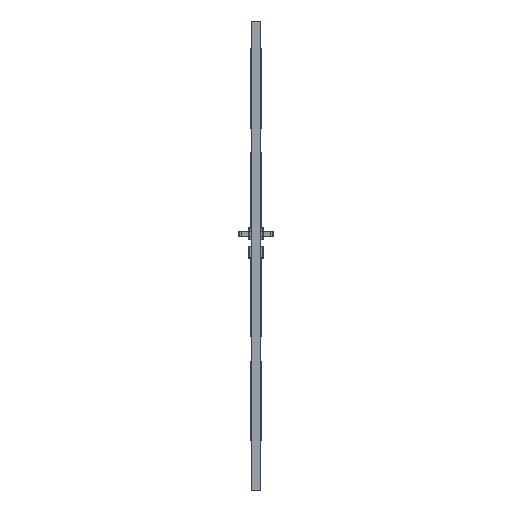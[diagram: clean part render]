
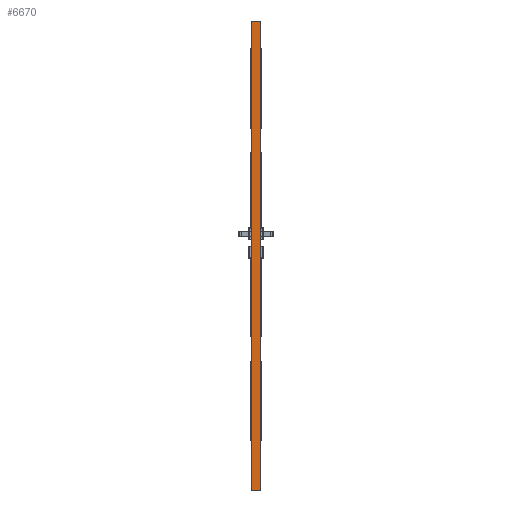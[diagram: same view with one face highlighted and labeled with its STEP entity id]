
A CAD part, left-side view. The second image highlights one B-rep face of the part: STEP entity #6670.
In plain terms, the highlighted planar face has unit normal (-1, 0, 0).
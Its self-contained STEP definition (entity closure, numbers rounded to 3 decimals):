
#6670=ADVANCED_FACE('',(#12442),#10005,.F.);
#10005=PLANE('',#66684);
#12442=FACE_OUTER_BOUND('',#15994,.T.);
#15994=EDGE_LOOP('',(#22382,#22383,#22384,#22385,#22386,#22387));
#22382=ORIENTED_EDGE('',*,*,#45281,.T.);
#22383=ORIENTED_EDGE('',*,*,#45753,.T.);
#22384=ORIENTED_EDGE('',*,*,#45712,.T.);
#22385=ORIENTED_EDGE('',*,*,#45709,.T.);
#22386=ORIENTED_EDGE('',*,*,#45303,.F.);
#22387=ORIENTED_EDGE('',*,*,#45752,.F.);
#39092=VERTEX_POINT('',#89885);
#39093=VERTEX_POINT('',#89887);
#39114=VERTEX_POINT('',#89991);
#39115=VERTEX_POINT('',#89992);
#39362=VERTEX_POINT('',#93816);
#39364=VERTEX_POINT('',#93822);
#45281=EDGE_CURVE('',#39093,#39092,#54312,.T.);
#45303=EDGE_CURVE('',#39114,#39115,#54314,.T.);
#45709=EDGE_CURVE('',#39362,#39115,#54569,.T.);
#45712=EDGE_CURVE('',#39364,#39362,#54572,.T.);
#45752=EDGE_CURVE('',#39093,#39114,#54608,.T.);
#45753=EDGE_CURVE('',#39092,#39364,#54609,.T.);
#54312=LINE('',#89886,#60326);
#54314=LINE('',#89990,#60328);
#54569=LINE('',#93815,#60583);
#54572=LINE('',#93821,#60586);
#54608=LINE('',#93896,#60622);
#54609=LINE('',#93898,#60623);
#60326=VECTOR('',#71535,1.);
#60328=VECTOR('',#71539,1.);
#60583=VECTOR('',#72058,1.);
#60586=VECTOR('',#72063,1.);
#60622=VECTOR('',#72125,1.);
#60623=VECTOR('',#72128,1.);
#66684=AXIS2_PLACEMENT_3D('',#93899,#72129,#72130);
#71535=DIRECTION('',(0.,0.,-1.));
#71539=DIRECTION('',(0.,0.,-1.));
#72058=DIRECTION('',(0.,-0.707,0.707));
#72063=DIRECTION('',(0.,-1.,0.));
#72125=DIRECTION('',(0.,-1.,0.));
#72128=DIRECTION('',(0.,-0.707,-0.707));
#72129=DIRECTION('',(1.,0.,0.));
#72130=DIRECTION('',(0.,1.,0.));
#89885=CARTESIAN_POINT('',(-309.,0.,2.));
#89886=CARTESIAN_POINT('',(-309.,0.,2017.));
#89887=CARTESIAN_POINT('',(-309.,0.,2017.));
#89990=CARTESIAN_POINT('',(-309.,-39.3,2017.));
#89991=CARTESIAN_POINT('',(-309.,-39.3,2017.));
#89992=CARTESIAN_POINT('',(-309.,-39.3,2.));
#93815=CARTESIAN_POINT('',(-309.,-39.3,2.));
#93816=CARTESIAN_POINT('',(-309.,-37.3,0.));
#93821=CARTESIAN_POINT('',(-309.,0.,0.));
#93822=CARTESIAN_POINT('',(-309.,-2.,0.));
#93896=CARTESIAN_POINT('',(-309.,0.,2017.));
#93898=CARTESIAN_POINT('',(-309.,0.,2.));
#93899=CARTESIAN_POINT('',(-309.,0.,2017.));
